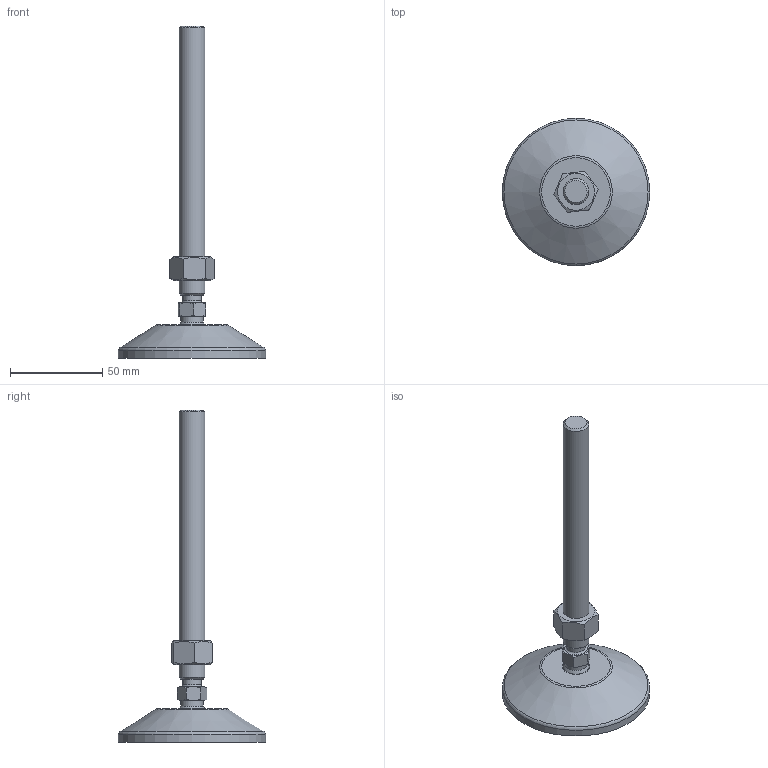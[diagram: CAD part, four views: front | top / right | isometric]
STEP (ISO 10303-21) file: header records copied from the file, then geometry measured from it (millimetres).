
FILE_DESCRIPTION(('STEP AP203'), '1');
FILE_NAME('栖闉罻', '', ('UNSPECIFIED'), ('UNSPECIFIED'), 'C3D Converter', 'C3D Toolkit', '');
FILE_SCHEMA(('CONFIG_CONTROL_DESIGN'));
Length unit declared in the file: millimetre
Products named in the file (4): A00020.114150; A00015.1080
Assembly tree (3 placements, depth 3):
  (unnamed)
    A00020.114150
      (unnamed)
    A00015.1080
Bounding box: 80 x 80 x 180.01 mm (x, y, z)
Volume: 65089.6 mm3; surface area: 26239.2 mm2
Topology: 3 solids, 3 shells, 191 faces, 476 edges, 313 vertices
Faces by surface type: plane 96, cylinder 58, cone 21, torus 14, sphere 2
Full cylindrical faces by diameter (mm): 4 x8, 10.2 x1, 11.835 x1, 12 x1, 14 x1, 14.3 x1, 15 x2, 15.5 x1, 69.3 x1, 80 x1
Entity records: 9645 total; most frequent: CARTESIAN_POINT 3455, DIRECTION 942, ORIENTED_EDGE 880, EDGE_CURVE 440, AXIS2_PLACEMENT_3D 377, VERTEX_POINT 312, EDGE_LOOP 250, FACE_BOUND 207
